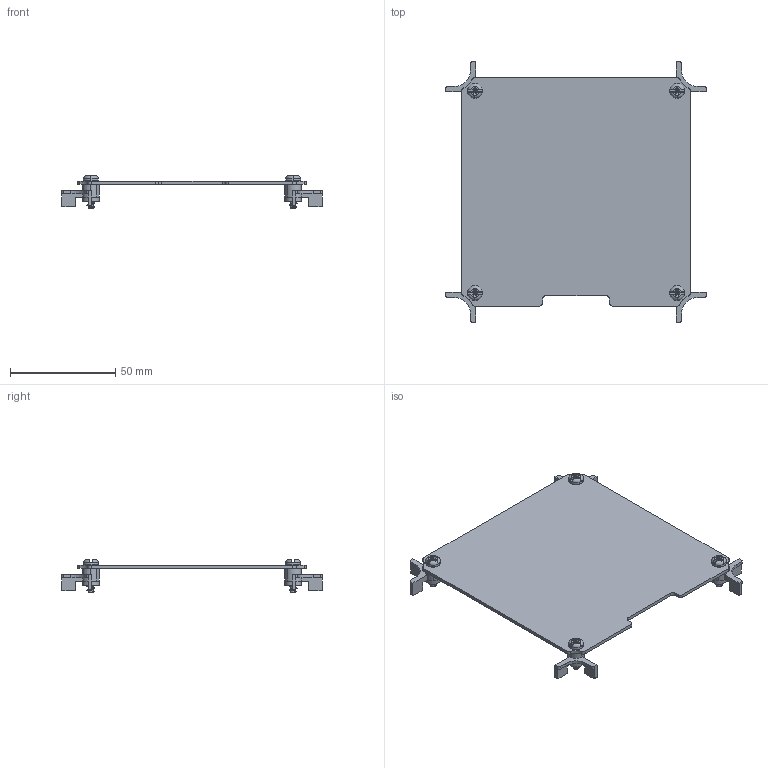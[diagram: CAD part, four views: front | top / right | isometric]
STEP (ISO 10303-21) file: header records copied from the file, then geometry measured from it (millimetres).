
FILE_DESCRIPTION (( 'STEP AP203' ), '1' );
FILE_NAME ('SK-16K.step', '2017-10-25T15:24:58', ( 'mdickason' ), ( 'Hewlett-Packard Company' ), 'SwSTEP 2.0', 'SolidWorks 2016', '' );
FILE_SCHEMA (( 'CONFIG_CONTROL_DESIGN' ));
Length unit declared in the file: inch
Products named in the file (6): SCREWS-024_default; SK-16K; SK-16P; SK-97S-01^SK-97S; SK-97S_FOR ASSEMBLY; SK-97S-02^SK-97S
Assembly tree (14 placements, depth 3):
  SK-16K
    SK-16P
    SK-97S_FOR ASSEMBLY
      SK-97S-02^SK-97S  x4
      SK-97S-01^SK-97S  x4
    SCREWS-024_default  x4
Bounding box: 123.7 x 123.7 x 15.6 mm (x, y, z)
Volume: 20975.2 mm3; surface area: 29268.8 mm2
Topology: 9 solids, 13 shells, 762 faces, 1832 edges, 1084 vertices
Faces by surface type: cylinder 288, bspline 188, plane 174, torus 68, cone 28, sphere 16
Entity records: 12225 total; most frequent: CARTESIAN_POINT 6509, ORIENTED_EDGE 1052, DIRECTION 997, EDGE_CURVE 526, AXIS2_PLACEMENT_3D 404, VERTEX_POINT 319, EDGE_LOOP 233, ADVANCED_FACE 218
